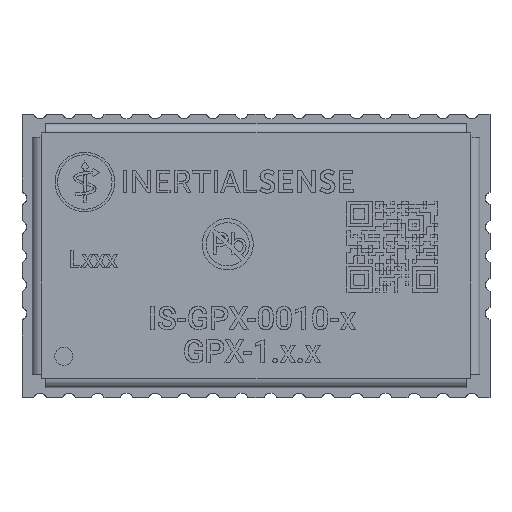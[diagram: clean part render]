
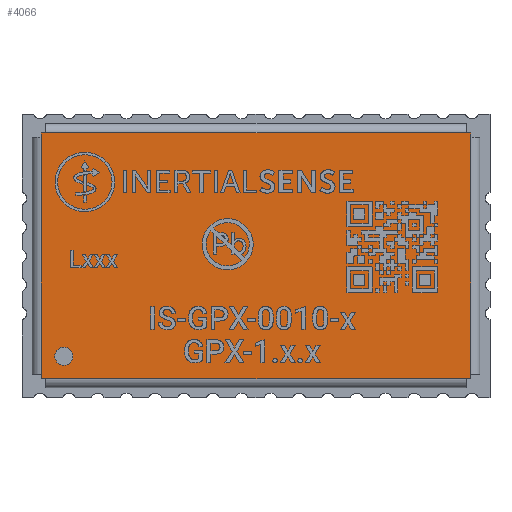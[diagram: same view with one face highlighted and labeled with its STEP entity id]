
A CAD part, top view. The second image highlights one B-rep face of the part: STEP entity #4066.
In plain terms, the highlighted planar face has unit normal (0, 0, 1).
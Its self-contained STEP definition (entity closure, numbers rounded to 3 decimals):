
#3247 = VERTEX_POINT('',#3248);
#3248 = CARTESIAN_POINT('',(19.6,0.825,1.909));
#3271 = VERTEX_POINT('',#3272);
#3272 = CARTESIAN_POINT('',(2.25,1.825,1.909));
#3288 = EDGE_CURVE('',#3271,#3271,#3289,.T.);
#3289 = CIRCLE('',#3290,0.4);
#3290 = AXIS2_PLACEMENT_3D('',#3291,#3292,#3293);
#3291 = CARTESIAN_POINT('',(1.85,1.825,1.909));
#3292 = DIRECTION('',(0.,0.,-1.));
#3293 = DIRECTION('',(-1.,0.,0.));
#3314 = VERTEX_POINT('',#3315);
#3315 = CARTESIAN_POINT('',(19.8,1.025,1.909));
#3321 = EDGE_CURVE('',#3314,#3322,#3324,.T.);
#3322 = VERTEX_POINT('',#3323);
#3323 = CARTESIAN_POINT('',(19.8,0.825,1.909));
#3324 = LINE('',#3325,#3326);
#3325 = CARTESIAN_POINT('',(19.8,3.338,1.909));
#3326 = VECTOR('',#3327,1.);
#3327 = DIRECTION('',(0.,-1.,0.));
#3350 = EDGE_CURVE('',#3322,#3247,#3351,.T.);
#3351 = LINE('',#3352,#3353);
#3352 = CARTESIAN_POINT('',(5.388,0.825,1.909));
#3353 = VECTOR('',#3354,1.);
#3354 = DIRECTION('',(-1.,0.,0.));
#3456 = VERTEX_POINT('',#3457);
#3457 = CARTESIAN_POINT('',(19.6,11.675,1.909));
#3513 = EDGE_CURVE('',#3456,#3514,#3516,.T.);
#3514 = VERTEX_POINT('',#3515);
#3515 = CARTESIAN_POINT('',(19.8,11.675,1.909));
#3516 = LINE('',#3517,#3518);
#3517 = CARTESIAN_POINT('',(15.263,11.675,1.909));
#3518 = VECTOR('',#3519,1.);
#3519 = DIRECTION('',(1.,0.,0.));
#3544 = EDGE_CURVE('',#3514,#3545,#3547,.T.);
#3545 = VERTEX_POINT('',#3546);
#3546 = CARTESIAN_POINT('',(19.8,11.475,1.909));
#3547 = LINE('',#3548,#3549);
#3548 = CARTESIAN_POINT('',(19.8,3.338,1.909));
#3549 = VECTOR('',#3550,1.);
#3550 = DIRECTION('',(0.,-1.,0.));
#3616 = VERTEX_POINT('',#3617);
#3617 = CARTESIAN_POINT('',(1.05,11.675,1.909));
#3624 = EDGE_CURVE('',#3616,#3456,#3625,.T.);
#3625 = LINE('',#3626,#3627);
#3626 = CARTESIAN_POINT('',(15.263,11.675,1.909));
#3627 = VECTOR('',#3628,1.);
#3628 = DIRECTION('',(1.,0.,0.));
#3743 = VERTEX_POINT('',#3744);
#3744 = CARTESIAN_POINT('',(0.85,0.825,1.909));
#3750 = EDGE_CURVE('',#3743,#3751,#3753,.T.);
#3751 = VERTEX_POINT('',#3752);
#3752 = CARTESIAN_POINT('',(0.85,1.025,1.909));
#3753 = LINE('',#3754,#3755);
#3754 = CARTESIAN_POINT('',(0.85,9.163,1.909));
#3755 = VECTOR('',#3756,1.);
#3756 = DIRECTION('',(0.,1.,0.));
#3779 = VERTEX_POINT('',#3780);
#3780 = CARTESIAN_POINT('',(1.05,0.825,1.909));
#3786 = EDGE_CURVE('',#3779,#3743,#3787,.T.);
#3787 = LINE('',#3788,#3789);
#3788 = CARTESIAN_POINT('',(5.388,0.825,1.909));
#3789 = VECTOR('',#3790,1.);
#3790 = DIRECTION('',(-1.,0.,0.));
#3861 = EDGE_CURVE('',#3247,#3779,#3862,.T.);
#3862 = LINE('',#3863,#3864);
#3863 = CARTESIAN_POINT('',(5.388,0.825,1.909));
#3864 = VECTOR('',#3865,1.);
#3865 = DIRECTION('',(-1.,0.,0.));
#3886 = VERTEX_POINT('',#3887);
#3887 = CARTESIAN_POINT('',(0.85,11.675,1.909));
#3893 = EDGE_CURVE('',#3886,#3616,#3894,.T.);
#3894 = LINE('',#3895,#3896);
#3895 = CARTESIAN_POINT('',(15.263,11.675,1.909));
#3896 = VECTOR('',#3897,1.);
#3897 = DIRECTION('',(1.,0.,0.));
#3922 = VERTEX_POINT('',#3923);
#3923 = CARTESIAN_POINT('',(0.85,11.475,1.909));
#3929 = EDGE_CURVE('',#3922,#3886,#3930,.T.);
#3930 = LINE('',#3931,#3932);
#3931 = CARTESIAN_POINT('',(0.85,9.163,1.909));
#3932 = VECTOR('',#3933,1.);
#3933 = DIRECTION('',(0.,1.,0.));
#3998 = EDGE_CURVE('',#3751,#3922,#3999,.T.);
#3999 = LINE('',#4000,#4001);
#4000 = CARTESIAN_POINT('',(0.85,9.163,1.909));
#4001 = VECTOR('',#4002,1.);
#4002 = DIRECTION('',(0.,1.,0.));
#4044 = EDGE_CURVE('',#3545,#3314,#4045,.T.);
#4045 = LINE('',#4046,#4047);
#4046 = CARTESIAN_POINT('',(19.8,3.338,1.909));
#4047 = VECTOR('',#4048,1.);
#4048 = DIRECTION('',(0.,-1.,0.));
#4066 = ADVANCED_FACE('',(#4067,#4081),#4084,.T.);
#4067 = FACE_BOUND('',#4068,.T.);
#4068 = EDGE_LOOP('',(#4069,#4070,#4071,#4072,#4073,#4074,#4075,#4076,
    #4077,#4078,#4079,#4080));
#4069 = ORIENTED_EDGE('',*,*,#3544,.F.);
#4070 = ORIENTED_EDGE('',*,*,#3513,.F.);
#4071 = ORIENTED_EDGE('',*,*,#3624,.F.);
#4072 = ORIENTED_EDGE('',*,*,#3893,.F.);
#4073 = ORIENTED_EDGE('',*,*,#3929,.F.);
#4074 = ORIENTED_EDGE('',*,*,#3998,.F.);
#4075 = ORIENTED_EDGE('',*,*,#3750,.F.);
#4076 = ORIENTED_EDGE('',*,*,#3786,.F.);
#4077 = ORIENTED_EDGE('',*,*,#3861,.F.);
#4078 = ORIENTED_EDGE('',*,*,#3350,.F.);
#4079 = ORIENTED_EDGE('',*,*,#3321,.F.);
#4080 = ORIENTED_EDGE('',*,*,#4044,.F.);
#4081 = FACE_BOUND('',#4082,.T.);
#4082 = EDGE_LOOP('',(#4083));
#4083 = ORIENTED_EDGE('',*,*,#3288,.T.);
#4084 = PLANE('',#4085);
#4085 = AXIS2_PLACEMENT_3D('',#4086,#4087,#4088);
#4086 = CARTESIAN_POINT('',(10.325,6.25,1.909));
#4087 = DIRECTION('',(0.,0.,1.));
#4088 = DIRECTION('',(1.,0.,-0.));
